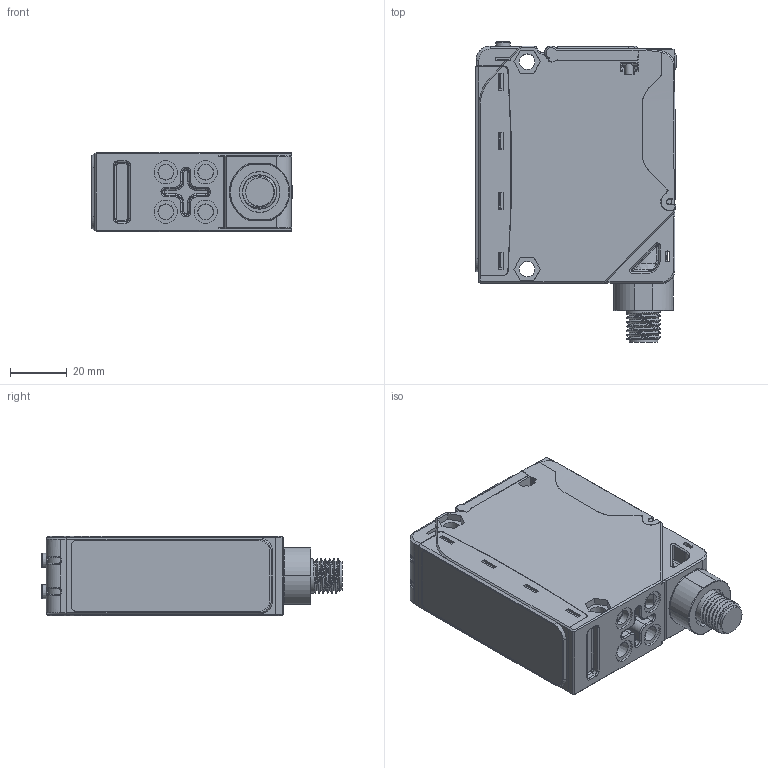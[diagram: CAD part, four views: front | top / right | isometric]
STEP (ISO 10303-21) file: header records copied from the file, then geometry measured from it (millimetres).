
FILE_DESCRIPTION(/* description */ (''),/* implementation_level */ '2;1');
FILE_NAME(/* name */ 's300_pr_STP.stp',/* time_stamp */ '2023-06-04T12:01:37+02:00',/* author */ (''),/* organization */ (''),/* preprocessor_version */ 'ST-DEVELOPER v16.701',/* originating_system */ 'SIEMENS PLM Software NX 1946',/* authorisation */ '');
FILE_SCHEMA (('AUTOMOTIVE_DESIGN { 1 0 10303 214 3 1 1 1 }'));
Products named in the file (1): FGut2F18D4F9q3dm
Bounding box: 70.47 x 105.65 x 28.14 mm (x, y, z)
Volume: 776.5 mm3; surface area: 45965.6 mm2
Topology: 10 solids, 11 shells, 1684 faces, 4237 edges, 2576 vertices
Faces by surface type: plane 791, cylinder 477, bspline 241, cone 106, sphere 46, torus 21, revolution 2
Full cylindrical faces by diameter (mm): 1.75 x2, 2.9 x2, 3 x5, 3.3 x1, 4.1 x1, 4.2 x1, 5.5 x2, 6 x2, 10 x1, 12 x6, 13.4 x1
Entity records: 55198 total; most frequent: CARTESIAN_POINT 19897, ORIENTED_EDGE 8242, DIRECTION 6025, EDGE_CURVE 4121, VERTEX_POINT 2553, AXIS2_PLACEMENT_3D 2193, EDGE_LOOP 1797, ADVANCED_FACE 1679
